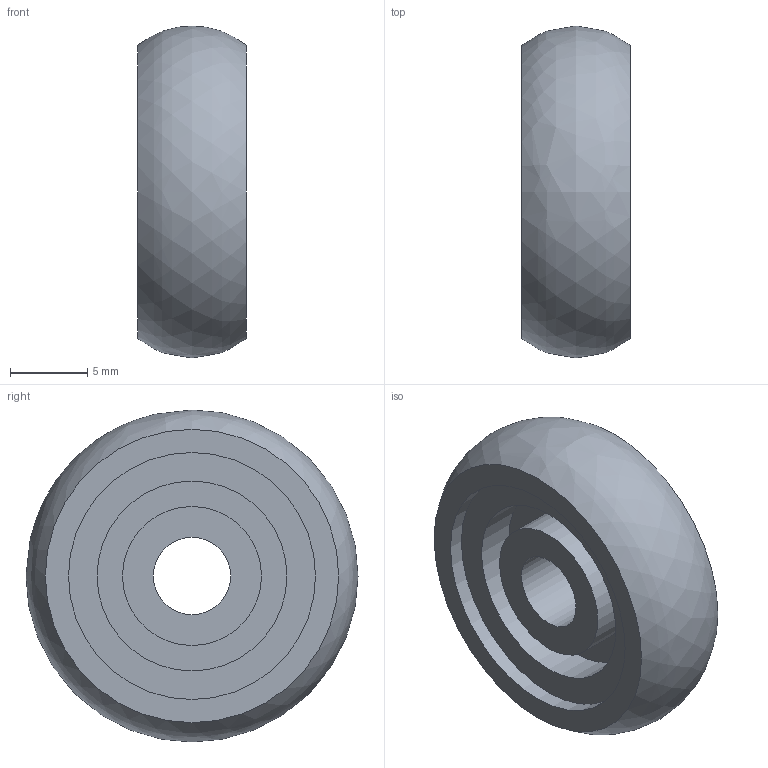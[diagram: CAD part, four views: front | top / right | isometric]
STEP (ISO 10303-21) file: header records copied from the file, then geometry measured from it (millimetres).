
FILE_DESCRIPTION(('FreeCAD Model'),'2;1');
FILE_NAME('Open CASCADE Shape Model','2021-05-04T15:08:44',('Author'),( ''),'Open CASCADE STEP processor 7.5','FreeCAD','Unknown');
FILE_SCHEMA(('AUTOMOTIVE_DESIGN { 1 0 10303 214 1 1 1 1 }'));
Length unit declared in the file: millimetre
Products named in the file (3): 21.5mm Roller Bearing v1; Component2; Component3
Assembly tree (2 placements, depth 2):
  21.5mm Roller Bearing v1
    Component2
    Component3
Bounding box: 7 x 21.5 x 21.5 mm (x, y, z)
Volume: 1696.8 mm3; surface area: 1898.7 mm2
Topology: 2 solids, 2 shells, 16 faces, 24 edges, 16 vertices
Faces by surface type: plane 8, cylinder 7, bspline 1
Full cylindrical faces by diameter (mm): 5 x1, 9 x2, 12.3 x2, 16 x2
Entity records: 889 total; most frequent: CARTESIAN_POINT 283, DIRECTION 112, ORIENTED_EDGE 48, PCURVE 48, DEFINITIONAL_REPRESENTATION 48, AXIS2_PLACEMENT_3D 35, LINE 35, VECTOR 35
